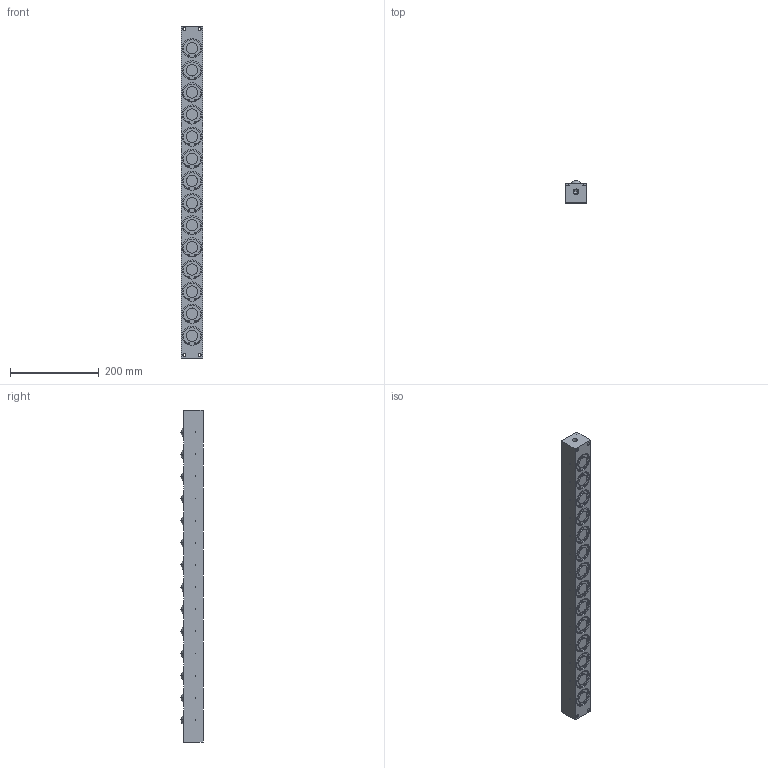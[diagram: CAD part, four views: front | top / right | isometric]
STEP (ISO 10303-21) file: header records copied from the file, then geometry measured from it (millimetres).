
FILE_DESCRIPTION (( 'STEP AP203' ), '1' );
FILE_NAME ('PVL55SW-14.STEP', '2016-01-06T02:21:42', ( '' ), ( '' ), 'SwSTEP 2.0', 'SolidWorks 2013', '' );
FILE_SCHEMA (( 'CONFIG_CONTROL_DESIGN' ));
Length unit declared in the file: millimetre
Products named in the file (1): PVL55SW-14
Bounding box: 49 x 50 x 750 mm (x, y, z)
Volume: 1587289.2 mm3; surface area: 186803.1 mm2
Topology: 2 solids, 2 shells, 678 faces, 1580 edges, 1008 vertices
Faces by surface type: cylinder 414, plane 174, cone 62, sphere 28
Entity records: 19423 total; most frequent: DIRECTION 3794, CARTESIAN_POINT 3207, ORIENTED_EDGE 3040, AXIS2_PLACEMENT_3D 1595, EDGE_CURVE 1520, VERTEX_POINT 1008, CIRCLE 916, EDGE_LOOP 848
